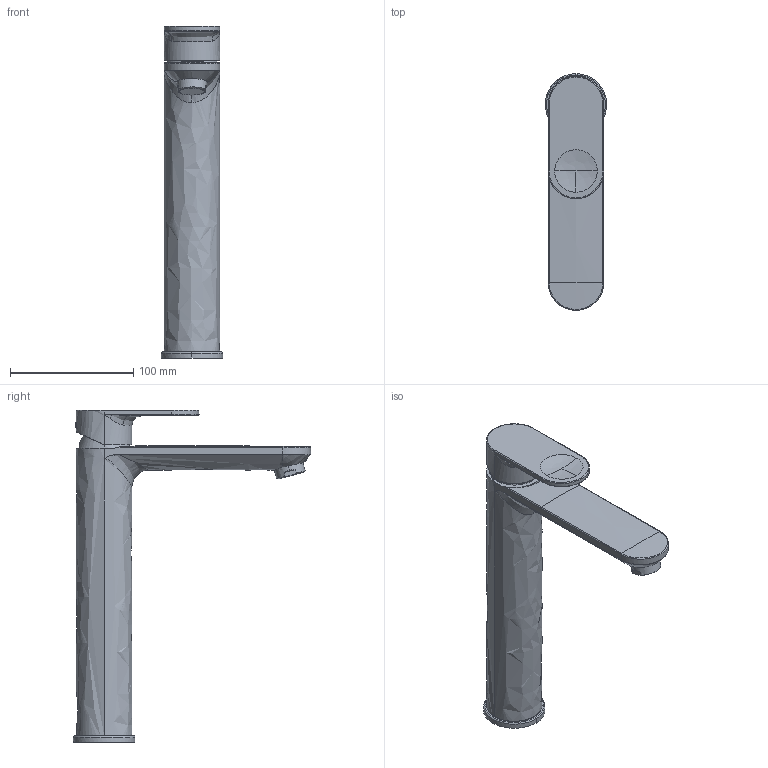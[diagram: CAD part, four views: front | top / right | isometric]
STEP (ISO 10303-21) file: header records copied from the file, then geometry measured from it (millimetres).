
FILE_DESCRIPTION(/* description */ (''),/* implementation_level */ '2;1');
FILE_NAME(/* name */ 'B31030002010',/* time_stamp */ '2019-02-25T16:06:58+01:00',/* author */ (''),/* organization */ (''),/* preprocessor_version */ 'ST-DEVELOPER v15',/* originating_system */ '',/* authorisation */ '');
FILE_SCHEMA (('AUTOMOTIVE_DESIGN'));
Length unit declared in the file: millimetre
Products named in the file (1): Document
Bounding box: 49.77 x 192.39 x 269.45 mm (x, y, z)
Volume: 3738.6 mm3; surface area: 68663.2 mm2
Topology: 1 solids, 6 shells, 112 faces, 265 edges, 164 vertices
Faces by surface type: bspline 112
Entity records: 10796 total; most frequent: CARTESIAN_POINT 7549, B_SPLINE_CURVE_WITH_KNOTS 590, ORIENTED_EDGE 512, PCURVE 512, DEFINITIONAL_REPRESENTATION 512, SURFACE_CURVE 262, EDGE_CURVE 262, VERTEX_POINT 164
